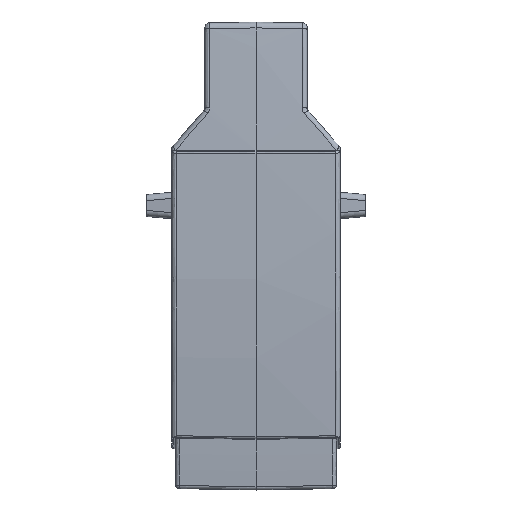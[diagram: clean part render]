
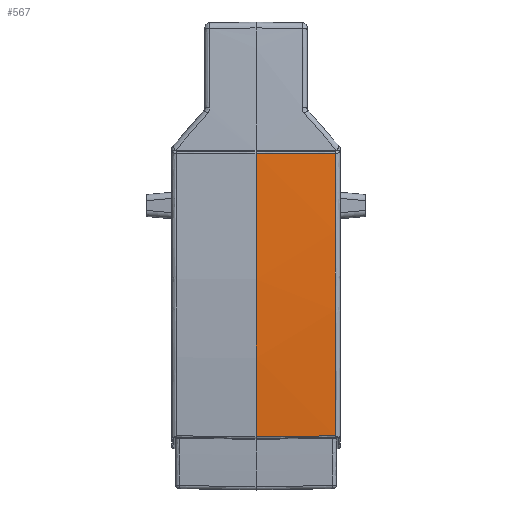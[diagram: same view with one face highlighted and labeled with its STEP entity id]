
A CAD part, left-side view. The second image highlights one B-rep face of the part: STEP entity #567.
In plain terms, the highlighted free-form (B-spline) face has degree [3, 1] with [6, 2] control points.
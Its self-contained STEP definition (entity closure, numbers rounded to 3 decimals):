
#54=B_SPLINE_SURFACE_WITH_KNOTS('',3,1,((#5369,#5370),(#5371,#5372),(#5373,
#5374),(#5375,#5376),(#5377,#5378),(#5379,#5380)),.UNSPECIFIED.,.F.,.F.,
 .F.,(4,2,4),(2,2),(0.,0.5,1.),(0.,1.),.UNSPECIFIED.);
#267=B_SPLINE_CURVE_WITH_KNOTS('',3,(#4939,#4940,#4941,#4942,#4943,#4944),
 .UNSPECIFIED.,.F.,.F.,(4,2,4),(0.,0.5,1.),.UNSPECIFIED.);
#269=B_SPLINE_CURVE_WITH_KNOTS('',3,(#4971,#4972,#4973,#4974,#4975),
 .UNSPECIFIED.,.F.,.F.,(4,1,4),(0.,0.5,1.),.UNSPECIFIED.);
#290=B_SPLINE_CURVE_WITH_KNOTS('',3,(#5354,#5355,#5356,#5357,#5358,#5359,
#5360,#5361,#5362,#5363),.UNSPECIFIED.,.F.,.F.,(4,3,3,4),(0.,0.381,
0.762,1.),.UNSPECIFIED.);
#291=B_SPLINE_CURVE_WITH_KNOTS('',3,(#5365,#5366,#5367,#5368),
 .UNSPECIFIED.,.F.,.F.,(4,4),(0.,1.),.UNSPECIFIED.);
#567=ADVANCED_FACE('',(#841),#54,.T.);
#841=FACE_OUTER_BOUND('',#1049,.T.);
#1049=EDGE_LOOP('',(#1367,#1368,#1369,#1370));
#1367=ORIENTED_EDGE('',*,*,#2661,.T.);
#1368=ORIENTED_EDGE('',*,*,#2713,.T.);
#1369=ORIENTED_EDGE('',*,*,#2714,.T.);
#1370=ORIENTED_EDGE('',*,*,#2663,.T.);
#2333=VERTEX_POINT('',#4938);
#2334=VERTEX_POINT('',#4945);
#2335=VERTEX_POINT('',#4976);
#2368=VERTEX_POINT('',#5364);
#2661=EDGE_CURVE('',#2334,#2333,#267,.T.);
#2663=EDGE_CURVE('',#2335,#2334,#269,.T.);
#2713=EDGE_CURVE('',#2333,#2368,#290,.T.);
#2714=EDGE_CURVE('',#2368,#2335,#291,.T.);
#4938=CARTESIAN_POINT('',(-39.506,-23.155,35.877));
#4939=CARTESIAN_POINT('',(-39.345,-23.155,-46.859));
#4940=CARTESIAN_POINT('',(-40.372,-23.155,-33.092));
#4941=CARTESIAN_POINT('',(-40.9,-23.155,-19.305));
#4942=CARTESIAN_POINT('',(-40.954,-23.155,8.305));
#4943=CARTESIAN_POINT('',(-40.48,-23.155,22.108));
#4944=CARTESIAN_POINT('',(-39.506,-23.155,35.877));
#4945=CARTESIAN_POINT('',(-39.345,-23.155,-46.859));
#4971=CARTESIAN_POINT('',(-39.725,0.,-47.195));
#4972=CARTESIAN_POINT('',(-39.661,-3.859,-47.139));
#4973=CARTESIAN_POINT('',(-39.535,-11.577,-47.027));
#4974=CARTESIAN_POINT('',(-39.408,-19.296,-46.915));
#4975=CARTESIAN_POINT('',(-39.345,-23.155,-46.859));
#4976=CARTESIAN_POINT('',(-39.725,0.,-47.195));
#5354=CARTESIAN_POINT('',(-39.506,-23.155,35.877));
#5355=CARTESIAN_POINT('',(-39.559,-20.216,35.877));
#5356=CARTESIAN_POINT('',(-39.612,-17.277,35.876));
#5357=CARTESIAN_POINT('',(-39.665,-14.337,35.876));
#5358=CARTESIAN_POINT('',(-39.718,-11.399,35.876));
#5359=CARTESIAN_POINT('',(-39.771,-8.46,35.876));
#5360=CARTESIAN_POINT('',(-39.824,-5.521,35.876));
#5361=CARTESIAN_POINT('',(-39.857,-3.681,35.876));
#5362=CARTESIAN_POINT('',(-39.891,-1.84,35.876));
#5363=CARTESIAN_POINT('',(-39.924,0.,35.876));
#5364=CARTESIAN_POINT('',(-39.924,0.,35.876));
#5365=CARTESIAN_POINT('',(-39.924,0.,35.876));
#5366=CARTESIAN_POINT('',(-41.879,0.,8.184));
#5367=CARTESIAN_POINT('',(-41.813,0.,-19.506));
#5368=CARTESIAN_POINT('',(-39.725,0.,-47.195));
#5369=CARTESIAN_POINT('',(-39.273,-23.294,-47.777));
#5370=CARTESIAN_POINT('',(-39.689,0.139,-47.693));
#5371=CARTESIAN_POINT('',(-40.341,-23.294,-33.779));
#5372=CARTESIAN_POINT('',(-40.757,0.139,-33.695));
#5373=CARTESIAN_POINT('',(-40.892,-23.294,-19.743));
#5374=CARTESIAN_POINT('',(-41.308,0.139,-19.659));
#5375=CARTESIAN_POINT('',(-40.957,-23.294,8.333));
#5376=CARTESIAN_POINT('',(-41.373,0.139,8.417));
#5377=CARTESIAN_POINT('',(-40.471,-23.294,22.372));
#5378=CARTESIAN_POINT('',(-40.888,0.139,22.456));
#5379=CARTESIAN_POINT('',(-39.468,-23.294,36.374));
#5380=CARTESIAN_POINT('',(-39.885,0.139,36.458));
